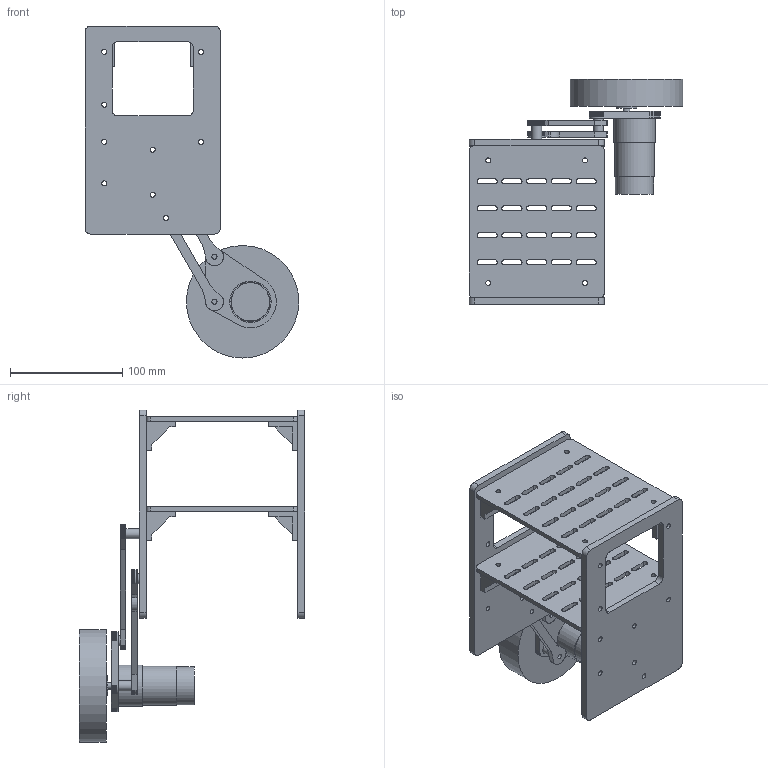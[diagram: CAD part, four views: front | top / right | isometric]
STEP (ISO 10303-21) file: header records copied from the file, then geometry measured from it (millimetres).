
FILE_DESCRIPTION(('Open CASCADE Model'),'2;1');
FILE_NAME('Open CASCADE Shape Model','2026-10-06T09:41:55',('Author'),( 'Open CASCADE'),'Open CASCADE STEP processor 7.8','Open CASCADE 7.8' ,'Unknown');
FILE_SCHEMA(('AUTOMOTIVE_DESIGN { 1 0 10303 214 1 1 1 1 }'));
Length unit declared in the file: millimetre
Products named in the file (27): HUX_ONE_LEG_BODY_R03; body_near; body_far; deck_60; angle_60_-43_0; angle_60_-43_1; angle_60_43_0; angle_60_43_1; deck_140; angle_140_-43_0; angle_140_-43_1; angle_140_43_0; angle_140_43_1; lower_link; upper_link; carrier; gearbox; motor; encoder; wheel; motor_pilot; shaft; hub_envelope; body_lower_spacer; body_upper_spacer; carrier_lower_spacer; carrier_upper_spacer
Assembly tree (26 placements, depth 2):
  HUX_ONE_LEG_BODY_R03
    body_near
    body_far
    deck_60
    angle_60_-43_0
    angle_60_-43_1
    angle_60_43_0
    angle_60_43_1
    deck_140
    angle_140_-43_0
    angle_140_-43_1
    angle_140_43_0
    angle_140_43_1
    lower_link
    upper_link
    carrier
    gearbox
    motor
    encoder
    wheel
    motor_pilot
    shaft
    hub_envelope
    body_lower_spacer
    body_upper_spacer
    carrier_lower_spacer
    carrier_upper_spacer
Bounding box: 190 x 200.5 x 295.26 mm (x, y, z)
Volume: 639667.7 mm3; surface area: 228637.4 mm2
Topology: 26 solids, 26 shells, 616 faces, 1692 edges, 1128 vertices
Faces by surface type: plane 437, cylinder 179
Full cylindrical faces by diameter (mm): 3.4 x6, 4.5 x53, 6 x2, 9 x4, 12 x1, 12.4 x1, 18 x1, 22 x1, 34 x1, 34.8 x1, 36.8 x1, 100 x1
Entity records: 43339 total; most frequent: CARTESIAN_POINT 8431, DIRECTION 6456, LINE 4360, VECTOR 4360, ORIENTED_EDGE 3384, PCURVE 3384, DEFINITIONAL_REPRESENTATION 3384, EDGE_CURVE 1692
